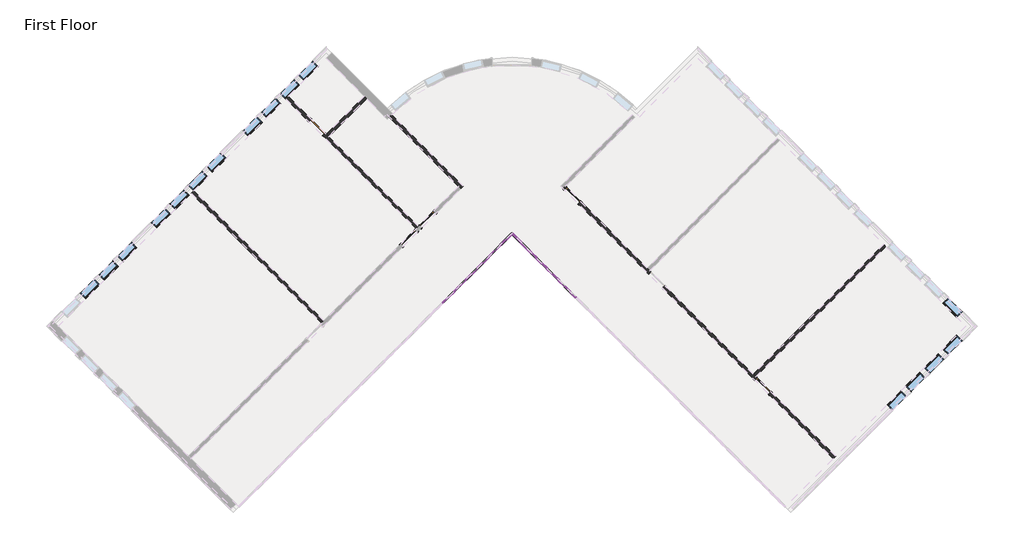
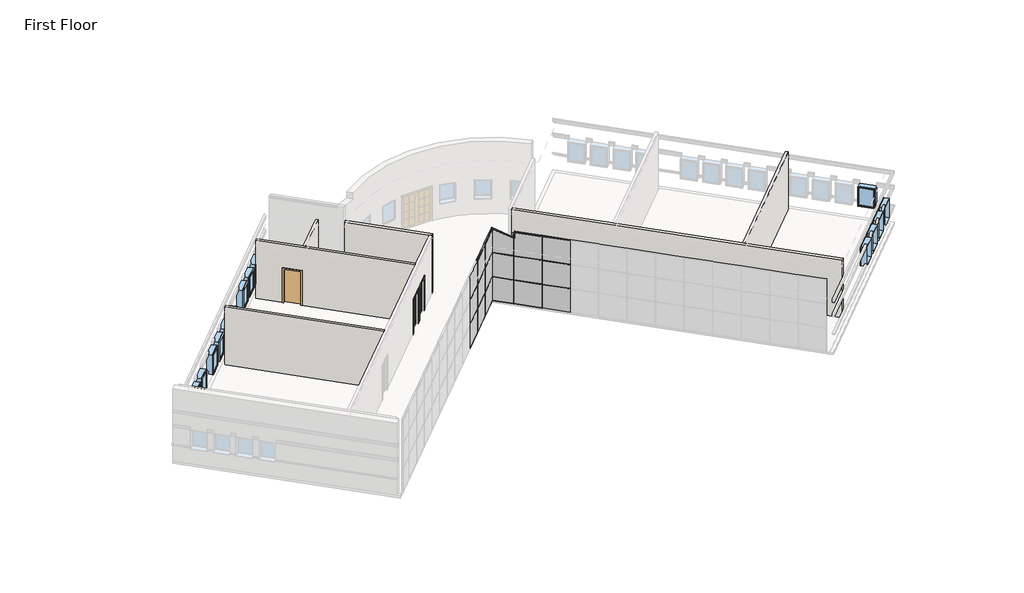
# One storey, part 3 of 7: 40 members, 18 plates, 16 windows, 6 walls, 5 doors.
"""IFC4 building model written with IfcOpenShell, lengths in millimetres."""

from ifc_helpers import new_model, si_unit, frame, origin, origin_with_axes, place, context, project, spatial, polyline, circle_curve, outline, extrude, faceted_brep, transform, mapped, element, save
from ifc_brep_helpers import plane_surface, cylinder_surface, advanced_brep
from components import door_f9494b7c, door_b81abb0e, door_5f5b55da, member_4c538f64, member_155beb68, member_9952366a, member_42be4715, member_2a473b70, member_6121af53, member_501cf4ca, member_3d68c01a, member_c3f37f0b, member_b87a50da, member_e1440e88, member_6675e4ca, member_521366c7, member_0bac5ac1, member_dc9ac586, member_4ed907bf, system_panel_glazed_ca335f2d, system_panel_glazed_da345f4e, system_panel_glazed_1c4746fc, system_panel_glazed_f1e4c5b0, system_panel_glazed_6b3f3dd8, system_panel_glazed_4e4f70a1, system_panel_solid_93f43095, system_panel_solid_cb9a7247, system_panel_solid_2f1037e2, system_panel_solid_79337ef0, system_panel_solid_a0329afc, window_15c49d37, window_0e2fc6ce

model = new_model("IFC4")

# Units and contexts
model_context = context("Model", 3, world=origin())
ifc_project = project(units=[si_unit("LENGTHUNIT", "METRE", prefix="MILLI")], contexts=[model_context])

# Site, building, storey
site = spatial("IfcSite", under=ifc_project)
building = spatial("IfcBuilding", under=site)
storey = spatial("IfcBuildingStorey", under=building, Name="First Floor", Elevation=0.0)

# Doors
placement = place(None, origin())
door_shape = door_f9494b7c(model_context)
element("IfcDoor", 1, ObjectType="Single-Flush : 36\" x 84\"", at=placement, inside=storey, context=model_context, shape_type="MappedRepresentation", body=[
    mapped(door_shape, transform((-11920.1265343, 7875.9588464, 0.0), x_axis=(0.7071067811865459, -0.7071067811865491, 0.0), y_axis=(0.7071067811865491, 0.7071067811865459, 0.0), z_axis=(0.0, 0.0, 1.0))),
])
door_2_shape = door_b81abb0e(model_context)
element("IfcDoor", 2, ObjectType="Single-Glass 1 : 36\" x 84\"", at=placement, inside=storey, context=model_context, shape_type="MappedRepresentation", body=[
    mapped(door_2_shape, transform((-7643.2795567, 2737.0072811, 0.0), x_axis=(0.7071067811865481, 0.7071067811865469, 0.0), y_axis=(-0.7071067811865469, 0.7071067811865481, 0.0), z_axis=(0.0, 0.0, 1.0))),
])
door_3_shape = door_5f5b55da(model_context)
element("IfcDoor", 3, ObjectType="Single-Glass 1 : 36\" x 84\"", at=placement, inside=storey, context=model_context, shape_type="MappedRepresentation", body=[
    mapped(door_3_shape, transform((-6781.1749691, 3599.1118687, 0.0), x_axis=(-0.7071067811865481, -0.7071067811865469, 0.0), y_axis=(0.7071067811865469, -0.7071067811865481, 0.0), z_axis=(0.0, 0.0, 1.0))),
])
element("IfcDoor", 4, ObjectType="Single-Glass 1 : 36\" x 84\"", at=placement, inside=storey, context=model_context, shape_type="MappedRepresentation", body=[
    mapped(door_3_shape, transform((-66.4240191, 4710.6541283, 0.0), x_axis=(-0.7071067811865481, 0.7071067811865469, 0.0), y_axis=(-0.7071067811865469, -0.7071067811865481, 0.0), z_axis=(0.0, 0.0, 1.0))),
])
element("IfcDoor", 5, ObjectType="Single-Glass 1 : 36\" x 84\"", at=placement, inside=storey, context=model_context, shape_type="MappedRepresentation", body=[
    mapped(door_3_shape, transform((8770.3835686, -4126.1534594, 0.0), x_axis=(-0.7071067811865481, 0.7071067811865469, 0.0), y_axis=(-0.7071067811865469, -0.7071067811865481, 0.0), z_axis=(0.0, 0.0, 1.0))),
])

# Members
member_shape = member_4c538f64(model_context)
element("IfcMember", 6, ObjectType="Rectangular Mullion : 1.5\" x 2.5\" Rectangular", at=placement, inside=storey, context=model_context, shape_type="MappedRepresentation", body=[
    mapped(member_shape, transform((-2894.9691327, 2925.5926597, 0.0), x_axis=(0.0, 0.0, -1.0), y_axis=(-0.7071067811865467, 0.7071067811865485, 0.0), z_axis=(0.7071067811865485, 0.7071067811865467, 0.0))),
])
member_2_shape = member_155beb68(model_context)
element("IfcMember", 7, ObjectType="Rectangular Mullion : 1.5\" x 2.5\" Rectangular", at=placement, inside=storey, context=model_context, shape_type="MappedRepresentation", body=[
    mapped(member_2_shape, transform((-3945.659099, 1874.9026933, 0.0), x_axis=(-0.7071067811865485, -0.7071067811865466, 0.0), y_axis=(-0.7071067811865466, 0.7071067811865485, 0.0), z_axis=(0.0, 0.0, -1.0))),
])
element("IfcMember", 8, ObjectType="Rectangular Mullion : 1.5\" x 2.5\" Rectangular", at=placement, inside=storey, context=model_context, shape_type="MappedRepresentation", body=[
    mapped(member_2_shape, transform((-5023.2898336, 797.2719587, 0.0), x_axis=(-0.7071067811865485, -0.7071067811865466, 0.0), y_axis=(-0.7071067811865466, 0.7071067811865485, 0.0), z_axis=(0.0, 0.0, -1.0))),
])
element("IfcMember", 9, ObjectType="Rectangular Mullion : 1.5\" x 2.5\" Rectangular", at=placement, inside=storey, context=model_context, shape_type="MappedRepresentation", body=[
    mapped(member_2_shape, transform((-961.9690028, 1046.4740665, 0.0), x_axis=(-0.7071067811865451, 0.70710678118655, 0.0), y_axis=(0.70710678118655, 0.7071067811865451, 0.0), z_axis=(0.0, 0.0, -1.0))),
])
element("IfcMember", 10, ObjectType="Rectangular Mullion : 1.5\" x 2.5\" Rectangular", at=placement, inside=storey, context=model_context, shape_type="MappedRepresentation", body=[
    mapped(member_2_shape, transform((-2039.5997374, 2124.1048011, 0.0), x_axis=(-0.7071067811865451, 0.70710678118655, 0.0), y_axis=(0.70710678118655, 0.7071067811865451, 0.0), z_axis=(0.0, 0.0, -1.0))),
])
member_3_shape = member_9952366a(model_context)
element("IfcMember", 11, ObjectType="Rectangular Mullion : 1.5\" x 2.5\" Rectangular", at=placement, inside=storey, context=model_context, shape_type="MappedRepresentation", body=[
    mapped(member_3_shape, transform((-3932.1887149, 1888.3730775, 1524.0), x_axis=(0.0, 0.0, 1.0), y_axis=(-0.7071067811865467, 0.7071067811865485, 0.0), z_axis=(-0.7071067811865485, -0.7071067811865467, 0.0))),
])
element("IfcMember", 12, ObjectType="Rectangular Mullion : 1.5\" x 2.5\" Rectangular", at=placement, inside=storey, context=model_context, shape_type="MappedRepresentation", body=[
    mapped(member_3_shape, transform((-3932.1887149, 1888.3730775, 3048.0), x_axis=(0.0, 0.0, 1.0), y_axis=(-0.7071067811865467, 0.7071067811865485, 0.0), z_axis=(-0.7071067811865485, -0.7071067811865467, 0.0))),
])
member_4_shape = member_42be4715(model_context)
element("IfcMember", 13, ObjectType="Rectangular Mullion : 1.5\" x 2.5\" Rectangular", at=placement, inside=storey, context=model_context, shape_type="MappedRepresentation", body=[
    mapped(member_4_shape, transform((-5009.8194494, 810.7423429, 1524.0), x_axis=(0.0, 0.0, 1.0), y_axis=(-0.7071067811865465, 0.7071067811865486, 0.0), z_axis=(-0.7071067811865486, -0.7071067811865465, 0.0))),
])
element("IfcMember", 14, ObjectType="Rectangular Mullion : 1.5\" x 2.5\" Rectangular", at=placement, inside=storey, context=model_context, shape_type="MappedRepresentation", body=[
    mapped(member_4_shape, transform((-5009.8194494, 810.7423429, 3048.0), x_axis=(0.0, 0.0, 1.0), y_axis=(-0.7071067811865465, 0.7071067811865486, 0.0), z_axis=(-0.7071067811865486, -0.7071067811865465, 0.0))),
])
element("IfcMember", 15, ObjectType="Rectangular Mullion : 1.5\" x 2.5\" Rectangular", at=placement, inside=storey, context=model_context, shape_type="MappedRepresentation", body=[
    mapped(member_4_shape, transform((-948.4986186, 1033.0036824, 1524.0), x_axis=(0.0, 0.0, 1.0), y_axis=(0.7071067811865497, 0.7071067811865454, 0.0), z_axis=(-0.7071067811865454, 0.7071067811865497, 0.0))),
])
element("IfcMember", 16, ObjectType="Rectangular Mullion : 1.5\" x 2.5\" Rectangular", at=placement, inside=storey, context=model_context, shape_type="MappedRepresentation", body=[
    mapped(member_4_shape, transform((-2026.1293532, 2110.6344169, 1524.0), x_axis=(0.0, 0.0, 1.0), y_axis=(0.7071067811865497, 0.7071067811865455, 0.0), z_axis=(-0.7071067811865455, 0.7071067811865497, 0.0))),
])
element("IfcMember", 17, ObjectType="Rectangular Mullion : 1.5\" x 2.5\" Rectangular", at=placement, inside=storey, context=model_context, shape_type="MappedRepresentation", body=[
    mapped(member_4_shape, transform((-948.4986186, 1033.0036824, 3048.0), x_axis=(0.0, 0.0, 1.0), y_axis=(0.7071067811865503, 0.7071067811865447, 0.0), z_axis=(-0.7071067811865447, 0.7071067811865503, 0.0))),
])
element("IfcMember", 18, ObjectType="Rectangular Mullion : 1.5\" x 2.5\" Rectangular", at=placement, inside=storey, context=model_context, shape_type="MappedRepresentation", body=[
    mapped(member_4_shape, transform((-2026.1293532, 2110.6344169, 3048.0), x_axis=(0.0, 0.0, 1.0), y_axis=(0.707106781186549, 0.7071067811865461, 0.0), z_axis=(-0.7071067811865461, 0.707106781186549, 0.0))),
])
member_5_shape = member_2a473b70(model_context)
element("IfcMember", 19, ObjectType="Rectangular Mullion : 1.5\" x 2.5\" Rectangular", at=placement, inside=storey, context=model_context, shape_type="MappedRepresentation", body=[
    mapped(member_5_shape, transform((-2841.0875959, 2925.5926597, 1524.0), x_axis=(0.0, 0.0, 1.0), y_axis=(0.7071067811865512, 0.7071067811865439, 0.0), z_axis=(-0.7071067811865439, 0.7071067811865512, 0.0))),
])
element("IfcMember", 20, ObjectType="Rectangular Mullion : 1.5\" x 2.5\" Rectangular", at=placement, inside=storey, context=model_context, shape_type="MappedRepresentation", body=[
    mapped(member_5_shape, transform((-2841.0875959, 2925.5926597, 3048.0), x_axis=(0.0, 0.0, 1.0), y_axis=(0.7071067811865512, 0.7071067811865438, 0.0), z_axis=(-0.7071067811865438, 0.7071067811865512, 0.0))),
])
member_6_shape = member_6121af53(model_context)
element("IfcMember", 21, ObjectType="Rectangular Mullion : 1.5\" x 2.5\" Rectangular", at=placement, inside=storey, context=model_context, shape_type="MappedRepresentation", body=[
    mapped(member_6_shape, transform((-3959.1294832, 1861.4323091, 0.0), x_axis=(0.0, 0.0, -1.0), y_axis=(-0.7071067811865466, 0.7071067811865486, 0.0), z_axis=(0.7071067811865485, 0.7071067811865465, 0.0))),
])
element("IfcMember", 22, ObjectType="Rectangular Mullion : 1.5\" x 2.5\" Rectangular", at=placement, inside=storey, context=model_context, shape_type="MappedRepresentation", body=[
    mapped(member_6_shape, transform((-5036.7602178, 783.8015746, 0.0), x_axis=(0.0, 0.0, -1.0), y_axis=(-0.7071067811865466, 0.7071067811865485, 0.0), z_axis=(0.7071067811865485, 0.7071067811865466, 0.0))),
])
element("IfcMember", 23, ObjectType="Rectangular Mullion : 1.5\" x 2.5\" Rectangular", at=placement, inside=storey, context=model_context, shape_type="MappedRepresentation", body=[
    mapped(member_6_shape, transform((-975.439387, 1059.9444507, 0.0), x_axis=(0.0, 0.0, -1.0), y_axis=(0.707106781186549, 0.7071067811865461, 0.0), z_axis=(0.7071067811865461, -0.707106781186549, 0.0))),
])
member_7_shape = member_501cf4ca(model_context)
element("IfcMember", 24, ObjectType="Rectangular Mullion : 1.5\" x 2.5\" Rectangular", at=placement, inside=storey, context=model_context, shape_type="MappedRepresentation", body=[
    mapped(member_7_shape, transform((-2053.0701215, 2137.5751852, 0.0), x_axis=(0.0, 0.0, -1.0), y_axis=(0.7071067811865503, 0.7071067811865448, 0.0), z_axis=(0.7071067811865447, -0.7071067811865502, 0.0))),
])
element("IfcMember", 25, ObjectType="Rectangular Mullion : 1.5\" x 2.5\" Rectangular", at=placement, inside=storey, context=model_context, shape_type="MappedRepresentation", body=[
    mapped(member_shape, transform((-3932.1887149, 1888.3730775, 4567.7666667), x_axis=(0.0, 0.0, 1.0), y_axis=(-0.7071067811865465, 0.7071067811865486, 0.0), z_axis=(-0.7071067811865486, -0.7071067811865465, 0.0))),
])
element("IfcMember", 26, ObjectType="Rectangular Mullion : 1.5\" x 2.5\" Rectangular", at=placement, inside=storey, context=model_context, shape_type="MappedRepresentation", body=[
    mapped(member_6_shape, transform((-5009.8194494, 810.7423429, 4567.7666667), x_axis=(0.0, 0.0, 1.0), y_axis=(-0.7071067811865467, 0.7071067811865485, 0.0), z_axis=(-0.7071067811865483, -0.7071067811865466, 0.0))),
])
element("IfcMember", 27, ObjectType="Rectangular Mullion : 1.5\" x 2.5\" Rectangular", at=placement, inside=storey, context=model_context, shape_type="MappedRepresentation", body=[
    mapped(member_6_shape, transform((-948.4986186, 1033.0036824, 4572.0), x_axis=(0.0, 0.0, 1.0), y_axis=(0.7071067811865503, 0.7071067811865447, 0.0), z_axis=(-0.7071067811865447, 0.7071067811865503, 0.0))),
])
element("IfcMember", 28, ObjectType="Rectangular Mullion : 1.5\" x 2.5\" Rectangular", at=placement, inside=storey, context=model_context, shape_type="MappedRepresentation", body=[
    mapped(member_2_shape, transform((-3945.659099, 1874.9026933, 1524.0), x_axis=(-0.7071067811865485, -0.7071067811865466, 0.0), y_axis=(-0.7071067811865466, 0.7071067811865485, 0.0), z_axis=(0.0, 0.0, -1.0))),
])
element("IfcMember", 29, ObjectType="Rectangular Mullion : 1.5\" x 2.5\" Rectangular", at=placement, inside=storey, context=model_context, shape_type="MappedRepresentation", body=[
    mapped(member_2_shape, transform((-5023.2898336, 797.2719587, 1524.0), x_axis=(-0.7071067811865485, -0.7071067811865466, 0.0), y_axis=(-0.7071067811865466, 0.7071067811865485, 0.0), z_axis=(0.0, 0.0, -1.0))),
])
element("IfcMember", 30, ObjectType="Rectangular Mullion : 1.5\" x 2.5\" Rectangular", at=placement, inside=storey, context=model_context, shape_type="MappedRepresentation", body=[
    mapped(member_2_shape, transform((-961.9690028, 1046.4740665, 1524.0), x_axis=(-0.7071067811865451, 0.70710678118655, 0.0), y_axis=(0.70710678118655, 0.7071067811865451, 0.0), z_axis=(0.0, 0.0, -1.0))),
])
element("IfcMember", 31, ObjectType="Rectangular Mullion : 1.5\" x 2.5\" Rectangular", at=placement, inside=storey, context=model_context, shape_type="MappedRepresentation", body=[
    mapped(member_2_shape, transform((-2039.5997374, 2124.1048011, 1524.0), x_axis=(-0.7071067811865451, 0.70710678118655, 0.0), y_axis=(0.70710678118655, 0.7071067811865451, 0.0), z_axis=(0.0, 0.0, -1.0))),
])
member_8_shape = member_3d68c01a(model_context)
element("IfcMember", 32, ObjectType="Rectangular Mullion : 1.5\" x 2.5\" Rectangular", at=placement, inside=storey, context=model_context, shape_type="MappedRepresentation", body=[
    mapped(member_8_shape, transform((-3945.659099, 1874.9026933, 3048.0), x_axis=(-0.7071067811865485, -0.7071067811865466, 0.0), y_axis=(-0.7071067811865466, 0.7071067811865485, 0.0), z_axis=(0.0, 0.0, -1.0))),
])
element("IfcMember", 33, ObjectType="Rectangular Mullion : 1.5\" x 2.5\" Rectangular", at=placement, inside=storey, context=model_context, shape_type="MappedRepresentation", body=[
    mapped(member_8_shape, transform((-5023.2898336, 797.2719587, 3048.0), x_axis=(-0.7071067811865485, -0.7071067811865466, 0.0), y_axis=(-0.7071067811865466, 0.7071067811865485, 0.0), z_axis=(0.0, 0.0, -1.0))),
])
member_9_shape = member_c3f37f0b(model_context)
element("IfcMember", 34, ObjectType="Rectangular Mullion : 1.5\" x 2.5\" Rectangular", at=placement, inside=storey, context=model_context, shape_type="MappedRepresentation", body=[
    mapped(member_9_shape, transform((-2868.0283643, 2952.533428, 4567.7666667), x_axis=(0.7071067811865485, 0.7071067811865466, 0.0), y_axis=(-0.7071067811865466, 0.7071067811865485, 0.0), z_axis=(0.0, 0.0, 1.0))),
])
member_10_shape = member_b87a50da(model_context)
element("IfcMember", 35, ObjectType="Rectangular Mullion : 1.5\" x 2.5\" Rectangular", at=placement, inside=storey, context=model_context, shape_type="MappedRepresentation", body=[
    mapped(member_10_shape, transform((-2868.0283643, 2952.533428, 0.0), x_axis=(-0.7071067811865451, 0.70710678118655, 0.0), y_axis=(0.70710678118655, 0.7071067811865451, 0.0), z_axis=(0.0, 0.0, -1.0))),
])
element("IfcMember", 36, ObjectType="Rectangular Mullion : 1.5\" x 2.5\" Rectangular", at=placement, inside=storey, context=model_context, shape_type="MappedRepresentation", body=[
    mapped(member_10_shape, transform((-2868.0283643, 2952.533428, 1524.0), x_axis=(-0.7071067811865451, 0.70710678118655, 0.0), y_axis=(0.70710678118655, 0.7071067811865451, 0.0), z_axis=(0.0, 0.0, -1.0))),
])
element("IfcMember", 37, ObjectType="Rectangular Mullion : 1.5\" x 2.5\" Rectangular", at=placement, inside=storey, context=model_context, shape_type="MappedRepresentation", body=[
    mapped(member_10_shape, transform((-2868.0283643, 2952.533428, 1524.0), x_axis=(0.7071067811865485, 0.7071067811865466, 0.0), y_axis=(-0.7071067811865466, 0.7071067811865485, 0.0), z_axis=(0.0, 0.0, 1.0))),
])
element("IfcMember", 38, ObjectType="Rectangular Mullion : 1.5\" x 2.5\" Rectangular", at=placement, inside=storey, context=model_context, shape_type="MappedRepresentation", body=[
    mapped(member_10_shape, transform((-2868.0283643, 2952.533428, 3048.0), x_axis=(0.7071067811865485, 0.7071067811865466, 0.0), y_axis=(-0.7071067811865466, 0.7071067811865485, 0.0), z_axis=(0.0, 0.0, 1.0))),
])
member_11_shape = member_e1440e88(model_context)
element("IfcMember", 39, ObjectType="Rectangular Mullion : 1.5\" x 2.5\" Rectangular", at=placement, inside=storey, context=model_context, shape_type="MappedRepresentation", body=[
    mapped(member_11_shape, transform((-1978.9830083, 2063.488072, 4572.0), x_axis=(0.0, 0.0, 1.0), y_axis=(0.7071067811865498, 0.7071067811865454, 0.0), z_axis=(-0.7071067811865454, 0.7071067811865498, 0.0))),
])
member_12_shape = member_6675e4ca(model_context)
element("IfcMember", 40, ObjectType="Rectangular Mullion : 1.5\" x 2.5\" Rectangular", at=placement, inside=storey, context=model_context, shape_type="MappedRepresentation", body=[
    mapped(member_12_shape, transform((-2005.9237767, 2090.4288404, 4165.6), x_axis=(-0.7071067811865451, 0.70710678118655, 0.0), y_axis=(0.70710678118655, 0.7071067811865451, 0.0), z_axis=(0.0, 0.0, -1.0))),
])
member_13_shape = member_521366c7(model_context)
element("IfcMember", 41, ObjectType="Rectangular Mullion : 1.5\" x 2.5\" Rectangular", at=placement, inside=storey, context=model_context, shape_type="MappedRepresentation", body=[
    mapped(member_13_shape, transform((-2868.0283643, 2952.533428, 4572.0), x_axis=(0.22360679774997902, -0.22360679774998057, 0.9486832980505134), y_axis=(0.7071067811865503, 0.7071067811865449, 0.0), z_axis=(-0.6708203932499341, 0.6708203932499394, 0.31622776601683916))),
])
member_14_shape = member_0bac5ac1(model_context)
element("IfcMember", 42, ObjectType="Rectangular Mullion : 1.5\" x 2.5\" Rectangular", at=placement, inside=storey, context=model_context, shape_type="MappedRepresentation", body=[
    mapped(member_14_shape, transform((-2039.5997374, 2124.1048011, 4181.4750001), x_axis=(0.22360679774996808, -0.22360679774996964, 0.9486832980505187), y_axis=(0.7071067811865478, 0.7071067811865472, 0.0), z_axis=(-0.6708203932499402, 0.6708203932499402, 0.3162277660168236))),
])
element("IfcMember", 43, ObjectType="Rectangular Mullion : 1.5\" x 2.5\" Rectangular", at=placement, inside=storey, context=model_context, shape_type="MappedRepresentation", body=[
    mapped(member_2_shape, transform((-961.9690028, 1046.4740665, 3048.0), x_axis=(-0.7071067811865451, 0.70710678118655, 0.0), y_axis=(0.70710678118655, 0.7071067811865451, 0.0), z_axis=(0.0, 0.0, -1.0))),
])
member_15_shape = member_dc9ac586(model_context)
element("IfcMember", 44, ObjectType="Rectangular Mullion : 1.5\" x 2.5\" Rectangular", at=placement, inside=storey, context=model_context, shape_type="MappedRepresentation", body=[
    mapped(member_15_shape, transform((-2039.5997374, 2124.1048011, 3048.0), x_axis=(-0.7071067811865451, 0.70710678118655, 0.0), y_axis=(0.70710678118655, 0.7071067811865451, 0.0), z_axis=(0.0, 0.0, -1.0))),
])
member_16_shape = member_4ed907bf(model_context)
element("IfcMember", 45, ObjectType="Rectangular Mullion : 1.5\" x 2.5\" Rectangular", at=placement, inside=storey, context=model_context, shape_type="MappedRepresentation", body=[
    mapped(member_16_shape, transform((-2868.0283643, 2952.533428, 3048.0), x_axis=(-0.7071067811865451, 0.70710678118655, 0.0), y_axis=(0.70710678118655, 0.7071067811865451, 0.0), z_axis=(0.0, 0.0, -1.0))),
])

# Plates
system_panel_glazed_shape = system_panel_glazed_ca335f2d(model_context)
element("IfcPlate", 46, ObjectType="System Panel : Glazed", at=placement, inside=storey, context=model_context, shape_type="MappedRepresentation", body=[
    mapped(system_panel_glazed_shape, transform((-3413.5789238, 2406.9828686, 38.1), x_axis=(-0.7071067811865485, -0.7071067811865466, 0.0), y_axis=(0.7071067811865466, -0.7071067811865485, 0.0), z_axis=(0.0, 0.0, 1.0))),
])
system_panel_glazed_2_shape = system_panel_glazed_da345f4e(model_context)
element("IfcPlate", 47, ObjectType="System Panel : Glazed", at=placement, inside=storey, context=model_context, shape_type="MappedRepresentation", body=[
    mapped(system_panel_glazed_2_shape, transform((-423.1536356, 507.6586993, 38.1), x_axis=(-0.7071067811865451, 0.70710678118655, 0.0), y_axis=(-0.70710678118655, -0.7071067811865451, 0.0), z_axis=(0.0, 0.0, 1.0))),
])
element("IfcPlate", 48, ObjectType="System Panel : Glazed", at=placement, inside=storey, context=model_context, shape_type="MappedRepresentation", body=[
    mapped(system_panel_glazed_2_shape, transform((-4484.4744663, 1336.087326, 38.1), x_axis=(-0.7071067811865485, -0.7071067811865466, 0.0), y_axis=(0.7071067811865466, -0.7071067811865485, 0.0), z_axis=(0.0, 0.0, 1.0))),
])
element("IfcPlate", 49, ObjectType="System Panel : Glazed", at=placement, inside=storey, context=model_context, shape_type="MappedRepresentation", body=[
    mapped(system_panel_glazed_2_shape, transform((-5562.1052008, 258.4565915, 38.1), x_axis=(-0.7071067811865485, -0.7071067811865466, 0.0), y_axis=(0.7071067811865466, -0.7071067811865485, 0.0), z_axis=(0.0, 0.0, 1.0))),
])
element("IfcPlate", 50, ObjectType="System Panel : Glazed", at=placement, inside=storey, context=model_context, shape_type="MappedRepresentation", body=[
    mapped(system_panel_glazed_2_shape, transform((-1500.7843701, 1585.2894338, 38.1), x_axis=(-0.7071067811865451, 0.70710678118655, 0.0), y_axis=(-0.70710678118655, -0.7071067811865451, 0.0), z_axis=(0.0, 0.0, 1.0))),
])
system_panel_glazed_3_shape = system_panel_glazed_1c4746fc(model_context)
element("IfcPlate", 51, ObjectType="System Panel : Glazed", at=placement, inside=storey, context=model_context, shape_type="MappedRepresentation", body=[
    mapped(system_panel_glazed_3_shape, transform((-3413.5789238, 2406.9828686, 1543.05), x_axis=(-0.7071067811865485, -0.7071067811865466, 0.0), y_axis=(0.7071067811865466, -0.7071067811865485, 0.0), z_axis=(0.0, 0.0, 1.0))),
])
system_panel_glazed_4_shape = system_panel_glazed_f1e4c5b0(model_context)
element("IfcPlate", 52, ObjectType="System Panel : Glazed", at=placement, inside=storey, context=model_context, shape_type="MappedRepresentation", body=[
    mapped(system_panel_glazed_4_shape, transform((-423.1536356, 507.6586993, 1543.05), x_axis=(-0.7071067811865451, 0.70710678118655, 0.0), y_axis=(-0.70710678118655, -0.7071067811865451, 0.0), z_axis=(0.0, 0.0, 1.0))),
])
element("IfcPlate", 53, ObjectType="System Panel : Glazed", at=placement, inside=storey, context=model_context, shape_type="MappedRepresentation", body=[
    mapped(system_panel_glazed_4_shape, transform((-4484.4744663, 1336.087326, 1543.05), x_axis=(-0.7071067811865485, -0.7071067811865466, 0.0), y_axis=(0.7071067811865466, -0.7071067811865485, 0.0), z_axis=(0.0, 0.0, 1.0))),
])
element("IfcPlate", 54, ObjectType="System Panel : Glazed", at=placement, inside=storey, context=model_context, shape_type="MappedRepresentation", body=[
    mapped(system_panel_glazed_4_shape, transform((-5562.1052008, 258.4565915, 1543.05), x_axis=(-0.7071067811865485, -0.7071067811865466, 0.0), y_axis=(0.7071067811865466, -0.7071067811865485, 0.0), z_axis=(0.0, 0.0, 1.0))),
])
element("IfcPlate", 55, ObjectType="System Panel : Glazed", at=placement, inside=storey, context=model_context, shape_type="MappedRepresentation", body=[
    mapped(system_panel_glazed_4_shape, transform((-1500.7843701, 1585.2894338, 1543.05), x_axis=(-0.7071067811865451, 0.70710678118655, 0.0), y_axis=(-0.70710678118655, -0.7071067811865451, 0.0), z_axis=(0.0, 0.0, 1.0))),
])
system_panel_glazed_5_shape = system_panel_glazed_6b3f3dd8(model_context)
element("IfcPlate", 56, ObjectType="System Panel : Glazed", at=placement, inside=storey, context=model_context, shape_type="MappedRepresentation", body=[
    mapped(system_panel_glazed_5_shape, transform((-2447.0788587, 2531.5839225, 38.1), x_axis=(-0.7071067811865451, 0.70710678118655, 0.0), y_axis=(-0.70710678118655, -0.7071067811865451, 0.0), z_axis=(0.0, 0.0, 1.0))),
])
system_panel_glazed_6_shape = system_panel_glazed_4e4f70a1(model_context)
element("IfcPlate", 57, ObjectType="System Panel : Glazed", at=placement, inside=storey, context=model_context, shape_type="MappedRepresentation", body=[
    mapped(system_panel_glazed_6_shape, transform((-2447.0788587, 2531.5839225, 1543.05), x_axis=(-0.7071067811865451, 0.70710678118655, 0.0), y_axis=(-0.70710678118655, -0.7071067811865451, 0.0), z_axis=(0.0, 0.0, 1.0))),
])
system_panel_solid_shape = system_panel_solid_93f43095(model_context)
element("IfcPlate", 58, ObjectType="System Panel : Solid", at=placement, inside=storey, context=model_context, shape_type="MappedRepresentation", body=[
    mapped(system_panel_solid_shape, transform((-3413.5789238, 2406.9828686, 3067.05), x_axis=(-0.7071067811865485, -0.7071067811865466, 0.0), y_axis=(0.7071067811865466, -0.7071067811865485, 0.0), z_axis=(0.0, 0.0, 1.0))),
])
system_panel_solid_2_shape = system_panel_solid_cb9a7247(model_context)
element("IfcPlate", 59, ObjectType="System Panel : Solid", at=placement, inside=storey, context=model_context, shape_type="MappedRepresentation", body=[
    mapped(system_panel_solid_2_shape, transform((-4484.4744663, 1336.087326, 3067.05), x_axis=(-0.7071067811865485, -0.7071067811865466, 0.0), y_axis=(0.7071067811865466, -0.7071067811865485, 0.0), z_axis=(0.0, 0.0, 1.0))),
])
element("IfcPlate", 60, ObjectType="System Panel : Solid", at=placement, inside=storey, context=model_context, shape_type="MappedRepresentation", body=[
    mapped(system_panel_solid_2_shape, transform((-5562.1052008, 258.4565915, 3067.05), x_axis=(-0.7071067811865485, -0.7071067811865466, 0.0), y_axis=(0.7071067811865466, -0.7071067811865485, 0.0), z_axis=(0.0, 0.0, 1.0))),
])
system_panel_solid_3_shape = system_panel_solid_2f1037e2(model_context)
element("IfcPlate", 61, ObjectType="System Panel : Solid", at=placement, inside=storey, context=model_context, shape_type="MappedRepresentation", body=[
    mapped(system_panel_solid_3_shape, transform((-423.1536356, 507.6586993, 3067.05), x_axis=(-0.7071067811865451, 0.70710678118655, 0.0), y_axis=(-0.70710678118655, -0.7071067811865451, 0.0), z_axis=(0.0, 0.0, 1.0))),
])
system_panel_solid_4_shape = system_panel_solid_79337ef0(model_context)
element("IfcPlate", 62, ObjectType="System Panel : Solid", at=placement, inside=storey, context=model_context, shape_type="MappedRepresentation", body=[
    mapped(system_panel_solid_4_shape, transform((-1500.7843701, 1585.2894338, 3067.05), x_axis=(-0.7071067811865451, 0.70710678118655, 0.0), y_axis=(-0.70710678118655, -0.7071067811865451, 0.0), z_axis=(0.0, 0.0, 1.0))),
])
system_panel_solid_5_shape = system_panel_solid_a0329afc(model_context)
element("IfcPlate", 63, ObjectType="System Panel : Solid", at=placement, inside=storey, context=model_context, shape_type="MappedRepresentation", body=[
    mapped(system_panel_solid_5_shape, transform((-2447.0788587, 2531.5839225, 3067.05), x_axis=(-0.7071067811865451, 0.70710678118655, 0.0), y_axis=(-0.70710678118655, -0.7071067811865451, 0.0), z_axis=(0.0, 0.0, 1.0))),
])

# Walls
element("IfcWall", 64, ObjectType="Interior - 6 1/8\" Partition (2-hr)", at=placement, inside=storey, context=model_context, shape_type="Brep", body=[
    faceted_brep([(-7322.2354004, 3168.0595749, 0.0), (-11651.8413827, 7497.6655573, 0.0), (-11541.8332452, 7607.6736948, 0.0), (-11489.0742405, 7554.9146901, 0.0), (-11379.066103, 7444.9065526, 0.0), (-7212.2272629, 3278.0677124, 0.0), (-12298.4198234, 8144.243998, 0.0), (-13359.2125777, 9205.0367523, 0.0), (-13249.2044403, 9315.0448898, 0.0), (-12188.411686, 8254.2521355, 0.0), (-7212.2272629, 3278.0677124, 3657.6), (-11379.066103, 7444.9065526, 3657.6), (-11489.0742405, 7554.9146901, 3657.6), (-13249.2044403, 9315.0448898, 3657.6), (-13359.2125777, 9205.0367523, 3657.6), (-7322.2354004, 3168.0595749, 3657.6), (-11541.8332452, 7607.6736948, 2133.6), (-12188.411686, 8254.2521355, 2133.6), (-11651.8413827, 7497.6655573, 2133.6), (-12298.4198234, 8144.243998, 2133.6)], [[[0, 1, 2, 3, 4, 5]], [[6, 7, 8, 9]], [[10, 11, 12, 13, 14, 15]], [[5, 4, 3, 2, 16, 17, 9, 8, 13, 12, 11, 10]], [[18, 1, 0, 15, 14, 7, 6, 19]], [[13, 8, 7, 14]], [[5, 10, 15, 0]], [[16, 2, 1, 18]], [[17, 16, 18, 19]], [[9, 17, 19, 6]]]),
])
element("IfcWall", 65, ObjectType="Interior - 6 1/8\" Partition (2-hr)", at=placement, inside=storey, context=model_context, shape_type="AdvancedBrep", body=[
    advanced_brep(
    [(-5128.5722782, 5141.7064221, 0.0), (-8449.0111375, 8462.1452813, 0.0), (-8449.0111375, 8462.1452813, 3657.6), (-5128.5722782, 5141.7064221, 3657.6), (-5238.5804157, 5031.6982846, 0.0), (-5238.5804157, 5031.6982846, 3657.6), (-5348.5885532, 5141.7064221, 3657.6), (-8557.7157352, 8350.8336041, 3657.6), (-8557.7157352, 8350.8336041, 0.0), (-5348.5885532, 5141.7064221, 0.0)],
    [
        (0, 1),
        (1, 2),
        (2, 3),
        (3, 0),
        (4, 5),
        (5, 6),
        (6, 7),
        (7, 8),
        (8, 9),
        (9, 4),
        (0, 4),
        (8, 1, circle_curve(frame((-2868.0283643, 2903.1420194, 0.0), z_axis=(0.0, 0.0, -1.0), x_axis=(1.0, 0.0, 0.0)), 7877.175)),
        (2, 7, circle_curve(frame((-2868.0283643, 2903.1420194, 3657.6), z_axis=(0.0, 0.0, 1.0), x_axis=(1.0, 0.0, 0.0)), 7877.175)),
        (5, 3),
    ],
    [
        plane_surface(frame((-5183.576347, 5196.7104908, 0.0), z_axis=(0.7071067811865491, 0.7071067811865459, 0.0), x_axis=(-0.7071067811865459, 0.7071067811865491, 0.0))),
        plane_surface(frame((-5293.5844845, 5086.7023533, 0.0), z_axis=(-0.7071067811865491, -0.7071067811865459, 0.0), x_axis=(0.7071067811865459, -0.7071067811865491, 0.0))),
        plane_surface(frame((-5183.576347, 5196.7104908, 0.0), z_axis=(0.0, 0.0, -1.0), x_axis=(-0.707106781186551, -0.7071067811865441, 0.0))),
        plane_surface(frame((-8573.2406241, 8586.374768, 3657.6), z_axis=(0.0, 0.0, 1.0), x_axis=(-0.707106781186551, -0.7071067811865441, 0.0))),
        plane_surface(frame((-17899.854579, -7629.5758786, 0.0), z_axis=(0.7071067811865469, -0.7071067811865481, 0.0), x_axis=(0.7071067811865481, 0.7071067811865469, 0.0))),
        cylinder_surface(frame((-2868.0283643, 2903.1420194, 0.0), z_axis=(0.0, 0.0, -1.0), x_axis=(1.0, 0.0, 0.0)), 7877.175),
    ],
    [
        (0, [[1, 2, 3, 4]]),
        (1, [[5, 6, 7, 8, 9, 10]]),
        (2, [[-1, 11, -10, -9, 12]]),
        (3, [[-3, 13, -7, -6, 14]]),
        (4, [[-4, -14, -5, -11]]),
        (5, [[-2, -12, -8, -13]]),
    ],
),
])
element("IfcWall", 66, ObjectType="Interior - 6 1/8\" Partition (2-hr)", at=placement, inside=storey, context=model_context, shape_type="SweptSolid", body=[
    extrude(outline(polyline([(-11489.0742405, 7554.9146901), (-9728.9440408, 9315.0448898), (-9618.9359033, 9205.0367523), (-11379.066103, 7444.9065526), (-11489.0742405, 7554.9146901)])), origin_with_axes(), (0.0, 0.0, 1.0), 3657.6),
])
element("IfcWall", 67, ObjectType="Interior - 6 1/8\" Partition (2-hr)", at=placement, inside=storey, context=model_context, shape_type="SweptSolid", body=[
    extrude(outline(polyline([(-17633.6967091, 4930.552621), (-11596.7195317, -1106.4245564), (-11706.7276692, -1216.4326939), (-17743.7048466, 4820.5444835), (-17633.6967091, 4930.552621)])), origin_with_axes(), (0.0, 0.0, 1.0), 3657.6),
])
element("IfcWall", 68, ObjectType="Interior - 6 1/8\" Partition (2-hr)", at=placement, inside=storey, context=model_context, shape_type="Brep", body=[
    faceted_brep([(-387.4681754, 5141.7064221, 0.0), (-334.7091707, 5088.9474174, 0.0), (-444.7173082, 4978.9392799, 0.0), (-497.4763129, 5031.6982846, 0.0), (311.86927, 4442.3689766, 0.0), (3415.9058564, 1338.3323903, 0.0), (3525.9139939, 1228.3242528, 0.0), (3578.6729986, 1175.5652481, 0.0), (3468.6648611, 1065.5571106, 0.0), (201.8611325, 4332.3608392, 0.0), (4225.2514393, 528.9868073, 0.0), (8339.3312748, -3585.0930281, 0.0), (8449.3394123, -3695.1011656, 0.0), (8502.098417, -3747.8601703, 0.0), (8392.0902795, -3857.8683078, 0.0), (4115.2433018, 418.9786699, 0.0), (9148.6768577, -4394.438611, 0.0), (12149.2049342, -7394.9666875, 0.0), (12039.1967967, -7504.974825, 0.0), (9038.6687202, -4504.4467485, 0.0), (12149.2049342, -7394.9666875, 3657.6), (8449.3394123, -3695.1011656, 3657.6), (8339.3312748, -3585.0930281, 3657.6), (3525.9139939, 1228.3242528, 3657.6), (3415.9058564, 1338.3323903, 3657.6), (-387.4681754, 5141.7064221, 3657.6), (-497.4763129, 5031.6982846, 3657.6), (12039.1967967, -7504.974825, 3657.6), (8502.098417, -3747.8601703, 2133.6), (4225.2514393, 528.9868073, 2133.6), (3578.6729986, 1175.5652481, 2133.6), (311.86927, 4442.3689766, 2133.6), (-334.7091707, 5088.9474174, 2133.6), (9148.6768577, -4394.438611, 2133.6), (8392.0902795, -3857.8683078, 2133.6), (9038.6687202, -4504.4467485, 2133.6), (-444.7173082, 4978.9392799, 2133.6), (201.8611325, 4332.3608392, 2133.6), (3468.6648611, 1065.5571106, 2133.6), (4115.2433018, 418.9786699, 2133.6)], [[[0, 1, 2, 3]], [[4, 5, 6, 7, 8, 9]], [[10, 11, 12, 13, 14, 15]], [[16, 17, 18, 19]], [[20, 21, 22, 23, 24, 25, 26, 27]], [[28, 13, 12, 11, 10, 29, 30, 7, 6, 5, 4, 31, 32, 1, 0, 25, 24, 23, 22, 21, 20, 17, 16, 33]], [[15, 14, 34, 35, 19, 18, 27, 26, 3, 2, 36, 37, 9, 8, 38, 39]], [[25, 0, 3, 26]], [[17, 20, 27, 18]], [[36, 2, 1, 32]], [[37, 36, 32, 31]], [[9, 37, 31, 4]], [[38, 8, 7, 30]], [[39, 38, 30, 29]], [[15, 39, 29, 10]], [[34, 14, 13, 28]], [[35, 34, 28, 33]], [[19, 35, 33, 16]]]),
])
element("IfcWall", 69, ObjectType="Interior - 6 1/8\" Partition (2-hr)", at=placement, inside=storey, context=model_context, shape_type="SweptSolid", body=[
    extrude(outline(polyline([(8339.3312748, -3585.0930281), (14376.3084522, 2451.8841493), (14486.3165897, 2341.8760118), (8449.3394123, -3695.1011656), (8339.3312748, -3585.0930281)])), origin_with_axes(), (0.0, 0.0, 1.0), 3657.6),
])

# Windows
window_shape = window_15c49d37(model_context)
element("IfcWindow", 70, ObjectType="Fixed : 36\" x 48\"", at=placement, inside=storey, context=model_context, shape_type="MappedRepresentation", body=[
    mapped(window_shape, transform((-22474.1725406, 339.2788968, 0.0), x_axis=(-0.7071067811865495, -0.7071067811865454, 0.0), y_axis=(0.7071067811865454, -0.7071067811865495, 0.0), z_axis=(0.0, 0.0, 1.0))),
])
element("IfcWindow", 71, ObjectType="Fixed : 36\" x 48\"", at=placement, inside=storey, context=model_context, shape_type="MappedRepresentation", body=[
    mapped(window_shape, transform((-21612.067953, 1201.3834844, 0.0), x_axis=(-0.7071067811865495, -0.7071067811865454, 0.0), y_axis=(0.7071067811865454, -0.7071067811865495, 0.0), z_axis=(0.0, 0.0, 1.0))),
])
element("IfcWindow", 72, ObjectType="Fixed : 36\" x 48\"", at=placement, inside=storey, context=model_context, shape_type="MappedRepresentation", body=[
    mapped(window_shape, transform((-20749.9633654, 2063.488072, 0.0), x_axis=(-0.7071067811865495, -0.7071067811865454, 0.0), y_axis=(0.7071067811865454, -0.7071067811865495, 0.0), z_axis=(0.0, 0.0, 1.0))),
])
element("IfcWindow", 73, ObjectType="Fixed : 36\" x 48\"", at=placement, inside=storey, context=model_context, shape_type="MappedRepresentation", body=[
    mapped(window_shape, transform((-19187.8702245, 3625.5812129, 0.0), x_axis=(-0.7071067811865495, -0.7071067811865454, 0.0), y_axis=(0.7071067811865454, -0.7071067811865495, 0.0), z_axis=(0.0, 0.0, 1.0))),
])
element("IfcWindow", 74, ObjectType="Fixed : 36\" x 48\"", at=placement, inside=storey, context=model_context, shape_type="MappedRepresentation", body=[
    mapped(window_shape, transform((-18325.7656368, 4487.6858006, 0.0), x_axis=(-0.7071067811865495, -0.7071067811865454, 0.0), y_axis=(0.7071067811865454, -0.7071067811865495, 0.0), z_axis=(0.0, 0.0, 1.0))),
])
element("IfcWindow", 75, ObjectType="Fixed : 36\" x 48\"", at=placement, inside=storey, context=model_context, shape_type="MappedRepresentation", body=[
    mapped(window_shape, transform((-17463.6610492, 5349.7903882, 0.0), x_axis=(-0.7071067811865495, -0.7071067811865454, 0.0), y_axis=(0.7071067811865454, -0.7071067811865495, 0.0), z_axis=(0.0, 0.0, 1.0))),
])
element("IfcWindow", 76, ObjectType="Fixed : 36\" x 48\"", at=placement, inside=storey, context=model_context, shape_type="MappedRepresentation", body=[
    mapped(window_shape, transform((-16601.5564616, 6211.8949758, 0.0), x_axis=(-0.7071067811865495, -0.7071067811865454, 0.0), y_axis=(0.7071067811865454, -0.7071067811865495, 0.0), z_axis=(0.0, 0.0, 1.0))),
])
element("IfcWindow", 77, ObjectType="Fixed : 36\" x 48\"", at=placement, inside=storey, context=model_context, shape_type="MappedRepresentation", body=[
    mapped(window_shape, transform((17600.2203996, -2193.1533294, 0.0), x_axis=(0.7071067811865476, 0.7071067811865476, 0.0), y_axis=(-0.7071067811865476, 0.7071067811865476, 0.0), z_axis=(0.0, 0.0, 1.0))),
])
element("IfcWindow", 78, ObjectType="Fixed : 36\" x 48\"", at=placement, inside=storey, context=model_context, shape_type="MappedRepresentation", body=[
    mapped(window_shape, transform((16738.115812, -3055.257917, 0.0), x_axis=(0.7071067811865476, 0.7071067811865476, 0.0), y_axis=(-0.7071067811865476, 0.7071067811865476, 0.0), z_axis=(0.0, 0.0, 1.0))),
])
element("IfcWindow", 79, ObjectType="Fixed : 36\" x 48\"", at=placement, inside=storey, context=model_context, shape_type="MappedRepresentation", body=[
    mapped(window_shape, transform((15876.0112244, -3917.3625046, 0.0), x_axis=(0.7071067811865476, 0.7071067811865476, 0.0), y_axis=(-0.7071067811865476, 0.7071067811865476, 0.0), z_axis=(0.0, 0.0, 1.0))),
])
element("IfcWindow", 80, ObjectType="Fixed : 36\" x 48\"", at=placement, inside=storey, context=model_context, shape_type="MappedRepresentation", body=[
    mapped(window_shape, transform((15013.9066368, -4779.4670922, 0.0), x_axis=(0.7071067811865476, 0.7071067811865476, 0.0), y_axis=(-0.7071067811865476, 0.7071067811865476, 0.0), z_axis=(0.0, 0.0, 1.0))),
])
window_2_shape = window_0e2fc6ce(model_context)
element("IfcWindow", 81, ObjectType="Fixed : 36\" x 48\"", at=placement, inside=storey, context=model_context, shape_type="MappedRepresentation", body=[
    mapped(window_2_shape, transform((-12290.3265348, 10523.1249026, 0.0), x_axis=(0.7071067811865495, 0.7071067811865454, 0.0), y_axis=(-0.7071067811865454, 0.7071067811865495, 0.0), z_axis=(0.0, 0.0, 1.0))),
])
element("IfcWindow", 82, ObjectType="Fixed : 36\" x 48\"", at=placement, inside=storey, context=model_context, shape_type="MappedRepresentation", body=[
    mapped(window_2_shape, transform((-13152.4311224, 9661.020315, 0.0), x_axis=(0.7071067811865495, 0.7071067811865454, 0.0), y_axis=(-0.7071067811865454, 0.7071067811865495, 0.0), z_axis=(0.0, 0.0, 1.0))),
])
element("IfcWindow", 83, ObjectType="Fixed : 36\" x 48\"", at=placement, inside=storey, context=model_context, shape_type="MappedRepresentation", body=[
    mapped(window_2_shape, transform((-14014.53571, 8798.9157274, 0.0), x_axis=(0.7071067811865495, 0.7071067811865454, 0.0), y_axis=(-0.7071067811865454, 0.7071067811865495, 0.0), z_axis=(0.0, 0.0, 1.0))),
])
element("IfcWindow", 84, ObjectType="Fixed : 36\" x 48\"", at=placement, inside=storey, context=model_context, shape_type="MappedRepresentation", body=[
    mapped(window_2_shape, transform((-14876.6402977, 7936.8111398, 0.0), x_axis=(0.7071067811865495, 0.7071067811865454, 0.0), y_axis=(-0.7071067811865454, 0.7071067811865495, 0.0), z_axis=(0.0, 0.0, 1.0))),
])
element("IfcWindow", 85, ObjectType="Fixed : 36\" x 48\"", at=placement, inside=storey, context=model_context, shape_type="MappedRepresentation", body=[
    mapped(window_2_shape, transform((17600.2203996, -522.8256908, 0.0), x_axis=(0.7071067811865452, -0.7071067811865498, 0.0), y_axis=(0.7071067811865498, 0.7071067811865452, 0.0), z_axis=(0.0, 0.0, 1.0))),
])

save(model, "model.ifc")
